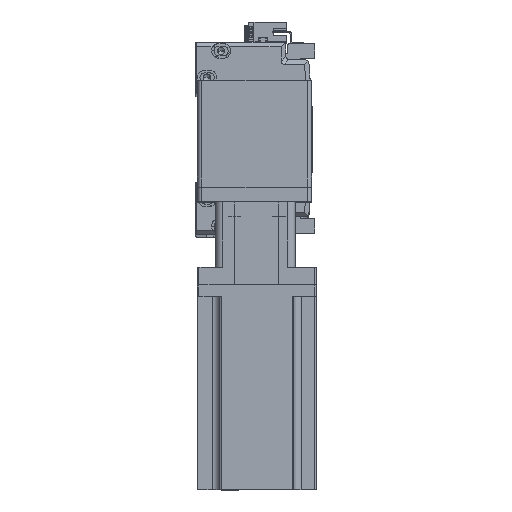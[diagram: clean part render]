
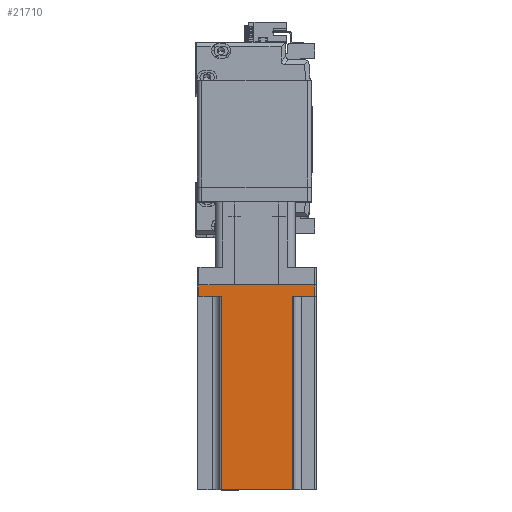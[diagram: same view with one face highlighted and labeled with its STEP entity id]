
A CAD part, top view. The second image highlights one B-rep face of the part: STEP entity #21710.
In plain terms, the highlighted planar face has unit normal (0, 0, 1) as drawn and (0, 1, 0) by its records, which use the part's own axes.
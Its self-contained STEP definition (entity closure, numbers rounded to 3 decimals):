
#600 = EDGE_CURVE ( 'NONE', #27085, #7397, #44705, .T. ) ;
#2232 = CARTESIAN_POINT ( 'NONE',  ( 39., 40., 8. ) ) ;
#2364 = ORIENTED_EDGE ( 'NONE', *, *, #28263, .T. ) ;
#2996 = ORIENTED_EDGE ( 'NONE', *, *, #25856, .T. ) ;
#3844 = CARTESIAN_POINT ( 'NONE',  ( -39., 40., 138.3 ) ) ;
#4412 = ORIENTED_EDGE ( 'NONE', *, *, #47029, .T. ) ;
#5913 = CARTESIAN_POINT ( 'NONE',  ( 24., 40., 138.3 ) ) ;
#6457 = VECTOR ( 'NONE', #36758, 1000. ) ;
#6631 = LINE ( 'NONE', #35848, #16833 ) ;
#6992 = CARTESIAN_POINT ( 'NONE',  ( 24., 40., 8. ) ) ;
#7315 = CARTESIAN_POINT ( 'NONE',  ( 24., 40., 138.3 ) ) ;
#7397 = VERTEX_POINT ( 'NONE', #6992 ) ;
#7444 = VERTEX_POINT ( 'NONE', #7315 ) ;
#10324 = ORIENTED_EDGE ( 'NONE', *, *, #29641, .T. ) ;
#10398 = CARTESIAN_POINT ( 'NONE',  ( 40., 40., 138.3 ) ) ;
#11086 = LINE ( 'NONE', #43828, #49663 ) ;
#11534 = DIRECTION ( 'NONE',  ( 1., 0., 0. ) ) ;
#13362 = CARTESIAN_POINT ( 'NONE',  ( 40., 40., 138.3 ) ) ;
#14249 = DIRECTION ( 'NONE',  ( 1., 0., 0. ) ) ;
#15016 = CARTESIAN_POINT ( 'NONE',  ( -39., 40., 0. ) ) ;
#16305 = EDGE_CURVE ( 'NONE', #35546, #21077, #16773, .T. ) ;
#16308 = AXIS2_PLACEMENT_3D ( 'NONE', #10398, #37413, #14249 ) ;
#16773 = LINE ( 'NONE', #3844, #25799 ) ;
#16833 = VECTOR ( 'NONE', #39747, 1000. ) ;
#17100 = FACE_OUTER_BOUND ( 'NONE', #29830, .T. ) ;
#18267 = EDGE_CURVE ( 'NONE', #7444, #40778, #40293, .T. ) ;
#18733 = LINE ( 'NONE', #34655, #27761 ) ;
#19365 = CARTESIAN_POINT ( 'NONE',  ( -24., 40., 138.3 ) ) ;
#19681 = VECTOR ( 'NONE', #36534, 1000. ) ;
#20672 = DIRECTION ( 'NONE',  ( 0., 0., 1. ) ) ;
#21077 = VERTEX_POINT ( 'NONE', #36655 ) ;
#21710 = ADVANCED_FACE ( 'NONE', ( #17100 ), #33196, .F. ) ;
#22396 = ORIENTED_EDGE ( 'NONE', *, *, #40988, .T. ) ;
#24114 = VECTOR ( 'NONE', #25927, 1000. ) ;
#25541 = ORIENTED_EDGE ( 'NONE', *, *, #18267, .F. ) ;
#25799 = VECTOR ( 'NONE', #26991, 1000. ) ;
#25856 = EDGE_CURVE ( 'NONE', #41136, #35546, #6631, .T. ) ;
#25927 = DIRECTION ( 'NONE',  ( -1., 0., 0. ) ) ;
#26285 = VERTEX_POINT ( 'NONE', #46042 ) ;
#26991 = DIRECTION ( 'NONE',  ( 0., 0., 1. ) ) ;
#27085 = VERTEX_POINT ( 'NONE', #2232 ) ;
#27656 = DIRECTION ( 'NONE',  ( 0., 0., -1. ) ) ;
#27761 = VECTOR ( 'NONE', #11534, 1000. ) ;
#27908 = VECTOR ( 'NONE', #27656, 1000. ) ;
#28263 = EDGE_CURVE ( 'NONE', #27085, #41136, #47208, .T. ) ;
#29622 = CARTESIAN_POINT ( 'NONE',  ( 39., 40., 0. ) ) ;
#29641 = EDGE_CURVE ( 'NONE', #21077, #26285, #18733, .T. ) ;
#29830 = EDGE_LOOP ( 'NONE', ( #10324, #22396, #25541, #4412, #31027, #2364, #2996, #41637 ) ) ;
#31027 = ORIENTED_EDGE ( 'NONE', *, *, #600, .F. ) ;
#33196 = PLANE ( 'NONE',  #16308 ) ;
#34655 = CARTESIAN_POINT ( 'NONE',  ( -25., 40., 8. ) ) ;
#35546 = VERTEX_POINT ( 'NONE', #15016 ) ;
#35848 = CARTESIAN_POINT ( 'NONE',  ( 40., 40., 0. ) ) ;
#36534 = DIRECTION ( 'NONE',  ( -1., 0., 0. ) ) ;
#36655 = CARTESIAN_POINT ( 'NONE',  ( -39., 40., 8. ) ) ;
#36758 = DIRECTION ( 'NONE',  ( 0., 0., -1. ) ) ;
#37413 = DIRECTION ( 'NONE',  ( 0., -1., 0. ) ) ;
#39747 = DIRECTION ( 'NONE',  ( -1., 0., 0. ) ) ;
#40293 = LINE ( 'NONE', #13362, #19681 ) ;
#40778 = VERTEX_POINT ( 'NONE', #19365 ) ;
#40988 = EDGE_CURVE ( 'NONE', #26285, #40778, #11086, .T. ) ;
#41136 = VERTEX_POINT ( 'NONE', #29622 ) ;
#41637 = ORIENTED_EDGE ( 'NONE', *, *, #16305, .T. ) ;
#43828 = CARTESIAN_POINT ( 'NONE',  ( -24., 40., 138.3 ) ) ;
#44705 = LINE ( 'NONE', #45217, #24114 ) ;
#45217 = CARTESIAN_POINT ( 'NONE',  ( 25., 40., 8. ) ) ;
#46042 = CARTESIAN_POINT ( 'NONE',  ( -24., 40., 8. ) ) ;
#46894 = CARTESIAN_POINT ( 'NONE',  ( 39., 40., 138.3 ) ) ;
#47029 = EDGE_CURVE ( 'NONE', #7444, #7397, #47402, .T. ) ;
#47208 = LINE ( 'NONE', #46894, #27908 ) ;
#47402 = LINE ( 'NONE', #5913, #6457 ) ;
#49663 = VECTOR ( 'NONE', #20672, 1000. ) ;
